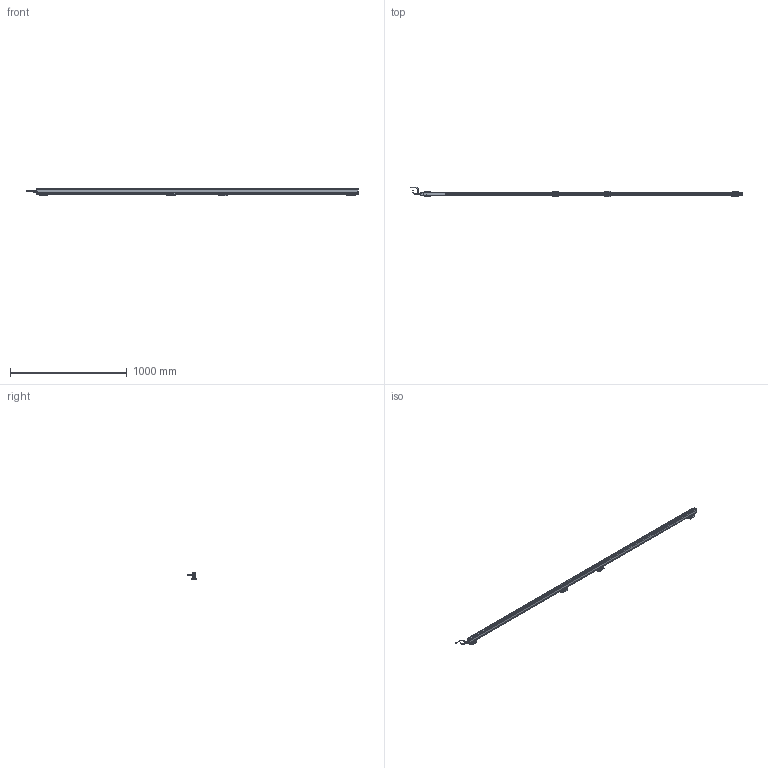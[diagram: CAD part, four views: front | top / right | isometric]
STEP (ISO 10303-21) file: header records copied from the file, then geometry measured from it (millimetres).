
FILE_DESCRIPTION(('Bauteilbeschreibung','HiCAD-Model','HiCAD-STEP-TRANSLATION','Bauteilbeschreibung'),'2;1');
FILE_NAME('PERFORMAXIQEASY_2670-2760_3D.STP','2014-03-05T13:04:59+00:00',('Konstrukteur'),('Konstrukteur Firma GmbH'),' HiCAD 2011, Step 1600.0 ','HiCAD 2011','confidential');
FILE_SCHEMA(('AUTOMOTIVE_DESIGN { 1 2 10303 214 0 1 1 1 }'));
Products named in the file (46): PERFORMAXIQEASY_2670_2760_3D; A_PERFORMAX IQ EASY 2670_2760; A_PERFORMAX IQ EASY SPEED; A_CAP DE; A_CAP CE_5; LED_2C_3MM; LED02C03MM; A519020315_CONNECTOR APPLIANCE; A_INSERT; A_CONTACTS; A_HOUSING; A_PROFILE; A_POTTING; PIN; PIN0; A532000100_BRACKET BARS_ MOUNT; A_SIDE PIECE; A0SIDE0PIECE; A_BRACKET SMALL; A_SLIDE PIECE; A5320001000BRACKET0BARS00MOUNT; A0SIDE0PIECE0; A0SIDE0PIECE1; A0BRACKET0SMALL; A0SLIDE0PIECE; A5320001000BRACKET0BARS00MOUNT0; A0SIDE0PIECE2; A0SIDE0PIECE3; A0BRACKET0SMALL0; A0SLIDE0PIECE0; A0SIDE0PIECE4; A0SIDE0PIECE5; A0BRACKET0SMALL1; A0SLIDE0PIECE1; A_CONNECTOR STRAIGHT; EXTRUDED SOLID_0; DRAAD GEBOGEN; REVOLVED SOLID_1; REVOLVED SOLID_3; A_CONNECTOR ANGLED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
Assembly tree (45 placements, depth 5):
  PERFORMAXIQEASY_2670_2760_3D
    A_PERFORMAX IQ EASY 2670_2760
      A_PERFORMAX IQ EASY SPEED
        A_CAP DE
        A_CAP CE_5
        LED_2C_3MM
        LED02C03MM
        A519020315_CONNECTOR APPLIANCE
          A_INSERT
          A_CONTACTS
          A_HOUSING
        A_PROFILE
        A_POTTING
        PIN
        PIN0
      A532000100_BRACKET BARS_ MOUNT
        A_SIDE PIECE
        A0SIDE0PIECE
        A_BRACKET SMALL
        A_SLIDE PIECE
      A5320001000BRACKET0BARS00MOUNT
        A0SIDE0PIECE0
        A0SIDE0PIECE1
        A0BRACKET0SMALL
        A0SLIDE0PIECE
      A5320001000BRACKET0BARS00MOUNT0
        A0SIDE0PIECE2
        A0SIDE0PIECE3
        A0BRACKET0SMALL0
        A0SLIDE0PIECE0
      A5320001000BRACKET0BARS00MOUNT0
        A0SIDE0PIECE4
        A0SIDE0PIECE5
        A0BRACKET0SMALL1
        A0SLIDE0PIECE1
      A_CONNECTOR STRAIGHT
        EXTRUDED SOLID_0
        DRAAD GEBOGEN
        REVOLVED SOLID_1
        REVOLVED SOLID_3
      A_CONNECTOR ANGLED
        REVOLVED0SOLID01
        EXTRUDED0SOLID00
        C_EDGE SWEEP_0
        REVOLVED SOLID_2
        REVOLVED0SOLID03
Bounding box: 2837.89 x 84.22 x 63.13 mm (x, y, z)
Volume: 2838249.6 mm3; surface area: 689578.1 mm2
Topology: 41 solids, 41 shells, 3447 faces, 8839 edges, 5258 vertices
Faces by surface type: cylinder 1457, plane 1315, sphere 222, torus 205, bspline 168, cone 80
Full cylindrical faces by diameter (mm): 0.8 x10, 1 x5, 2.387 x8, 3 x19, 3.1 x1, 4.2 x2, 5 x4, 5.5 x20, 8 x2, 8.2 x1, 8.4 x2, 8.945 x1, 9 x2, 10.2 x1, 10.5 x3, 11 x1, 12 x3, 12.8 x1, 13.8 x4, 14.5 x3
Entity records: 159221 total; most frequent: CARTESIAN_POINT 37152, DIRECTION 17145, ORIENTED_EDGE 16748, EDGE_CURVE 8374, COLOUR_RGB 7959, PRESENTATION_STYLE_ASSIGNMENT 7959, OVER_RIDING_STYLED_ITEM 7923, CURVE_STYLE 7918
